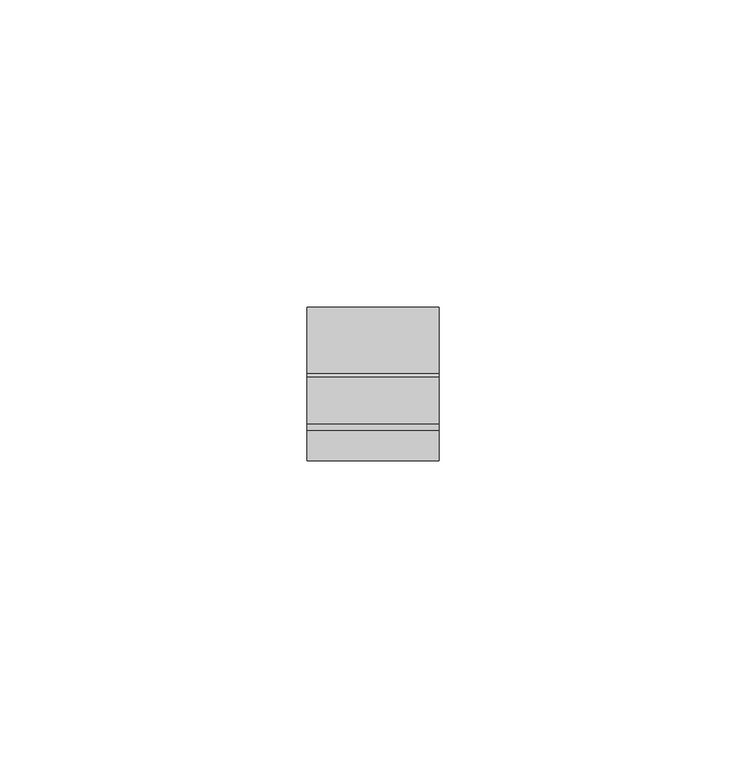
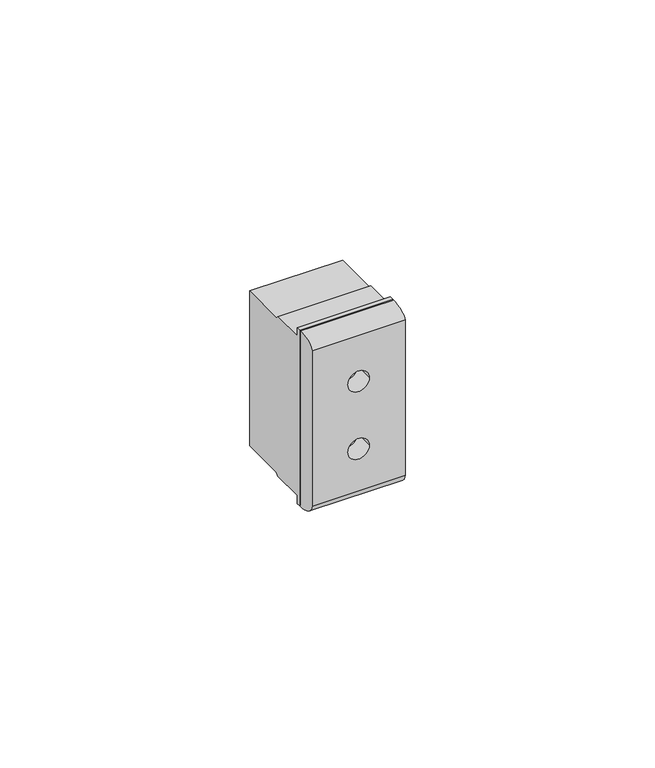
"""IFC4 building model written with IfcOpenShell, lengths in millimetres: proxy geometry, КНС_ЭлектрическаяРозетка1Модуль_DKC : Белый."""

from ifc_helpers import new_model, si_unit, point, frame, origin, place, context, project, spatial, polyline, circle_curve, ellipse_curve, trimmed, outline, extrude, source, transform, mapped, element, save
from ifc_brep_helpers import plane_surface, revolved_surface, extruded_surface, advanced_brep


def electrical_fixtures_2916f9f6(model_context):
    return source(origin(), model_context, "Body", "SolidModel", [
        extrude(outline(polyline([(-19.0331367, 21.5), (-19.0331367, 19.5), (-11.287857, 19.5), (-10.7214929, 18.9336359), (0.0, 18.9336359), (0.0, -18.9336359), (-10.7214929, -18.9336359), (-11.287857, -19.5), (-19.0331367, -19.5), (-19.0331367, -21.5), (-20.0, -21.5), (-20.0, 21.5), (-19.0331367, 21.5)])), frame((-10.75, 0.0, 0.0), z_axis=(1.0, 0.0, 0.0), x_axis=(0.0, 1.0, 0.0)), (0.0, 0.0, 1.0), 21.5),
        advanced_brep(
        [(10.75, -20.0, -21.5), (10.75, -20.0, 21.5), (10.75, -25.0, 19.5), (10.75, -25.0, -18.5), (-10.75, -20.0, -21.5), (-10.75, -25.0, -18.5), (-10.75, -25.0, 19.5), (-10.75, -20.0, 21.5), (-2.4928957, -20.0, 8.25), (2.4928957, -20.0, 8.25), (-2.4928957, -20.0, -8.25), (2.4928957, -20.0, -8.25), (2.4928957, -25.0, 8.25), (-2.4928957, -25.0, 8.25), (2.4928957, -25.0, -8.25), (-2.4928957, -25.0, -8.25)],
        [
            (0, 1),
            (1, 2, ellipse_curve(frame((10.75, -20.0, 19.5), z_axis=(1.0, 0.0, 0.0), x_axis=(0.0, 1.0, 0.0)), 5.0, 2.0)),
            (2, 3),
            (3, 0, ellipse_curve(frame((10.75, -20.0, -18.5), z_axis=(1.0, 0.0, 0.0), x_axis=(0.0, 1.0, 0.0)), 5.0, 3.0)),
            (4, 5, ellipse_curve(frame((-10.75, -20.0, -18.5), z_axis=(-1.0, 0.0, 0.0), x_axis=(0.0, 1.0, 0.0)), 5.0, 3.0)),
            (5, 6),
            (6, 7, ellipse_curve(frame((-10.75, -20.0, 19.5), z_axis=(-1.0, 0.0, 0.0), x_axis=(0.0, 1.0, 0.0)), 5.0, 2.0)),
            (7, 4),
            (0, 4),
            (7, 1),
            (8, 9, circle_curve(frame((0.0, -20.0, 8.25), z_axis=(0.0, -1.0, 0.0), x_axis=(1.0, 0.0, 0.0)), 2.4928957)),
            (9, 8, circle_curve(frame((0.0, -20.0, 8.25), z_axis=(0.0, -1.0, 0.0), x_axis=(1.0, 0.0, 0.0)), 2.4928957)),
            (10, 11, circle_curve(frame((0.0, -20.0, -8.25), z_axis=(0.0, -1.0, 0.0), x_axis=(1.0, 0.0, 0.0)), 2.4928957)),
            (11, 10, circle_curve(frame((0.0, -20.0, -8.25), z_axis=(0.0, -1.0, 0.0), x_axis=(1.0, 0.0, 0.0)), 2.4928957)),
            (6, 2),
            (5, 3),
            (12, 13, circle_curve(frame((0.0, -25.0, 8.25), z_axis=(0.0, 1.0, 0.0), x_axis=(1.0, 0.0, 0.0)), 2.4928957)),
            (13, 12, circle_curve(frame((0.0, -25.0, 8.25), z_axis=(0.0, 1.0, 0.0), x_axis=(1.0, 0.0, 0.0)), 2.4928957)),
            (14, 15, circle_curve(frame((0.0, -25.0, -8.25), z_axis=(0.0, 1.0, 0.0), x_axis=(1.0, 0.0, 0.0)), 2.4928957)),
            (15, 14, circle_curve(frame((0.0, -25.0, -8.25), z_axis=(0.0, 1.0, 0.0), x_axis=(1.0, 0.0, 0.0)), 2.4928957)),
            (12, 9),
            (8, 13),
            (14, 11),
            (10, 15),
        ],
        [
            plane_surface(frame((10.75, -20.0, 21.5), z_axis=(1.0, 0.0, 0.0), x_axis=(0.0, 0.0, 1.0))),
            plane_surface(frame((-10.75, -20.0, 21.5), z_axis=(-1.0, 0.0, 0.0), x_axis=(0.0, 0.0, -1.0))),
            plane_surface(frame((10.75, -20.0, -21.5), z_axis=(0.0, 1.0, 0.0), x_axis=(-1.0, 0.0, 0.0))),
            extruded_surface(trimmed(ellipse_curve(frame((-32.25, -20.0, 19.5), z_axis=(1.0, 0.0, 0.0), x_axis=(0.0, 1.0, 0.0)), 5.0, 2.0), [point((-32.25, -20.0, 21.5))], [point((-32.25, -25.0, 19.5))], True, "CARTESIAN"), (21.5, 0.0, 0.0), 21.5),
            plane_surface(frame((10.75, -25.0, 19.5), z_axis=(0.0, -1.0, 0.0), x_axis=(-1.0, 0.0, 0.0))),
            extruded_surface(trimmed(ellipse_curve(frame((-32.25, -20.0, -18.5), z_axis=(1.0, 0.0, 0.0), x_axis=(0.0, 1.0, 0.0)), 5.0, 3.0), [point((-32.25, -25.0, -18.5))], [point((-32.25, -20.0, -21.5))], True, "CARTESIAN"), (21.5, 0.0, 0.0), 21.5),
            revolved_surface(polyline([(2.4928957, -25.0, 8.25), (2.4928957, -20.0, 8.25)]), (0.0, -20.0, 8.25), (0.0, -1.0, 0.0)),
            revolved_surface(polyline([(2.4928957, -25.0, -8.25), (2.4928957, -20.0, -8.25)]), (0.0, 0.0, -8.25), (0.0, -1.0, 0.0)),
        ],
        [
            (0, [[1, 2, 3, 4]]),
            (1, [[5, 6, 7, 8]]),
            (2, [[-1, 9, -8, 10], [11, 12], [13, 14]]),
            (3, [[-2, -10, -7, 15]]),
            (4, [[-3, -15, -6, 16], [17, 18], [19, 20]]),
            (5, [[-4, -16, -5, -9]]),
            (6, [[21, -11, 22, -17]]),
            (6, [[-21, -18, -22, -12]]),
            (7, [[23, -13, 24, -19]]),
            (7, [[-23, -20, -24, -14]]),
        ],
    ),
    ])


if __name__ == "__main__":
    model = new_model("IFC4")
    model_context = context("Model", 3, world=origin())
    ifc_project = project(units=[si_unit("LENGTHUNIT", "METRE", prefix="MILLI")], contexts=[model_context])
    site = spatial("IfcSite", under=ifc_project)
    building = spatial("IfcBuilding", under=site)
    placement = place(None, origin())
    electrical_fixtures_shape = electrical_fixtures_2916f9f6(model_context)
    element("IfcBuildingElementProxy", 1, Name="КНС_ЭлектрическаяРозетка1Модуль_DKC : Белый", ObjectType="КНС_ЭлектрическаяРозетка1Модуль_DKC : Белый", at=placement, inside=building, context=model_context, shape_type="MappedRepresentation", body=[
        mapped(electrical_fixtures_shape, transform((0.0, 0.0, 0.0), x_axis=(1.0, 0.0, 0.0), y_axis=(0.0, 1.0, 0.0), z_axis=(0.0, 0.0, 1.0))),
    ])
    save(model, "model.ifc")
